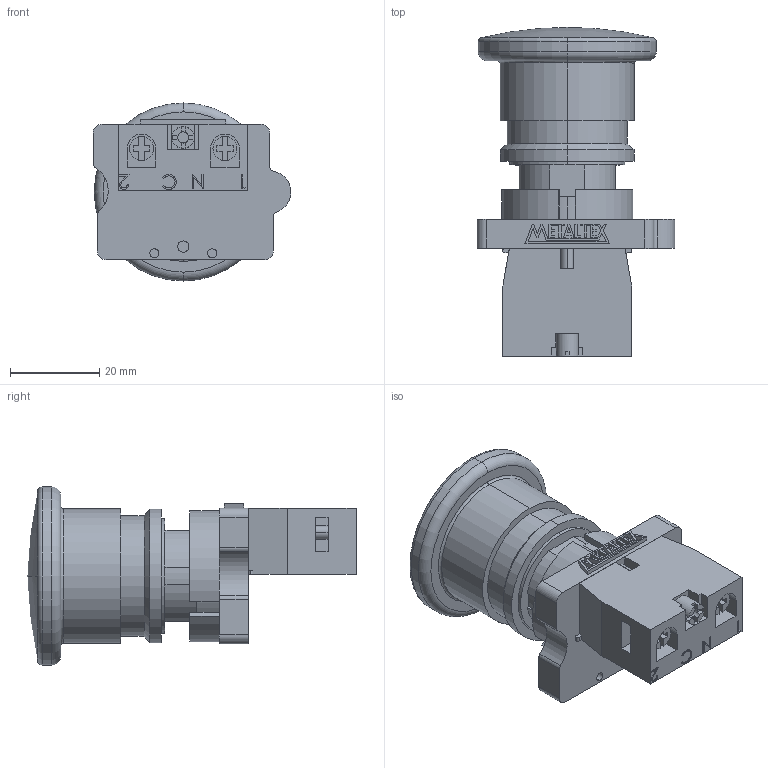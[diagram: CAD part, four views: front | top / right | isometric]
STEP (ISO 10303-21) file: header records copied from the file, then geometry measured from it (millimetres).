
FILE_DESCRIPTION (( 'STEP AP203' ), '1' );
FILE_NAME ('P20AMR-R-1B.STEP', '2018-01-17T13:47:11', ( '' ), ( '' ), 'SwSTEP 2.0', 'SolidWorks 2012', '' );
FILE_SCHEMA (( 'CONFIG_CONTROL_DESIGN' ));
Length unit declared in the file: millimetre
Products named in the file (4): P20AMR; M20-1B; METALTEX 18,98; P20AMR-R-1B
Assembly tree (3 placements, depth 2):
  P20AMR-R-1B
    P20AMR
    M20-1B
    METALTEX 18,98
Bounding box: 44.44 x 73.95 x 40 mm (x, y, z)
Volume: 47125.6 mm3; surface area: 13705.3 mm2
Topology: 9 solids, 9 shells, 354 faces, 915 edges, 603 vertices
Faces by surface type: plane 251, cylinder 74, bspline 15, torus 10, cone 2, sphere 2
Entity records: 12065 total; most frequent: CARTESIAN_POINT 2893, ORIENTED_EDGE 1830, DIRECTION 1777, EDGE_CURVE 915, LINE 683, VECTOR 683, VERTEX_POINT 603, AXIS2_PLACEMENT_3D 547
